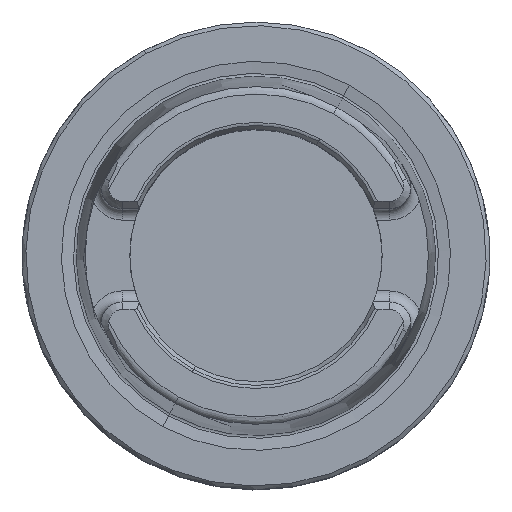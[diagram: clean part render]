
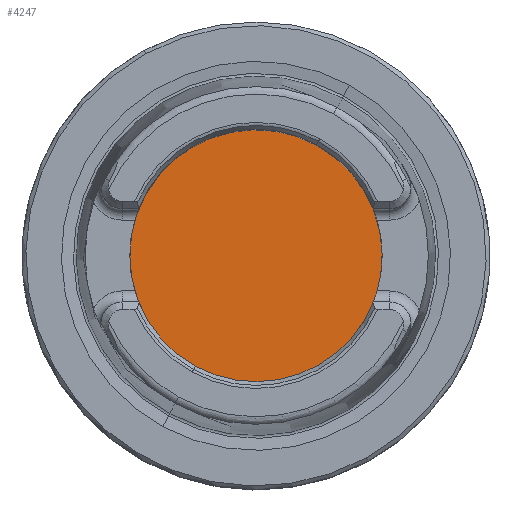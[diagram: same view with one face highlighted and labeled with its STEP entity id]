
A CAD part, top view. The second image highlights one B-rep face of the part: STEP entity #4247.
In plain terms, the highlighted planar face has unit normal (0, 0, 1).
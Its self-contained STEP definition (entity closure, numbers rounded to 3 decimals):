
#4227=AXIS2_PLACEMENT_3D('Plane Axis2P3D',#4224,#4225,#4226) ;
#4231=AXIS2_PLACEMENT_3D('Circle Axis2P3D',#4229,#4230,$) ;
#4240=AXIS2_PLACEMENT_3D('Circle Axis2P3D',#4238,#4239,$) ;
#4224=CARTESIAN_POINT('Axis2P3D Location',(0.,-15.75,-10.)) ;
#4229=CARTESIAN_POINT('Axis2P3D Location',(0.,0.,-10.)) ;
#4233=CARTESIAN_POINT('Vertex',(8.15,14.919,-10.)) ;
#4235=CARTESIAN_POINT('Vertex',(-8.15,-14.919,-10.)) ;
#4238=CARTESIAN_POINT('Axis2P3D Location',(0.,0.,-10.)) ;
#4225=DIRECTION('Axis2P3D Direction',(0.,0.,-1.)) ;
#4226=DIRECTION('Axis2P3D XDirection',(-1.,0.,0.)) ;
#4230=DIRECTION('Axis2P3D Direction',(0.,0.,-1.)) ;
#4239=DIRECTION('Axis2P3D Direction',(0.,0.,-1.)) ;
#4244=ORIENTED_EDGE('',*,*,#4237,.T.) ;
#4245=ORIENTED_EDGE('',*,*,#4242,.T.) ;
#4247=ADVANCED_FACE('NO_CUT',(#4246),#4228,.F.) ;
#4232=CIRCLE('generated circle',#4231,17.) ;
#4241=CIRCLE('generated circle',#4240,17.) ;
#4237=EDGE_CURVE('',#4234,#4236,#4232,.F.) ;
#4242=EDGE_CURVE('',#4236,#4234,#4241,.F.) ;
#4243=EDGE_LOOP('',(#4244,#4245)) ;
#4246=FACE_OUTER_BOUND('',#4243,.T.) ;
#4228=PLANE('',#4227) ;
#4234=VERTEX_POINT('',#4233) ;
#4236=VERTEX_POINT('',#4235) ;
